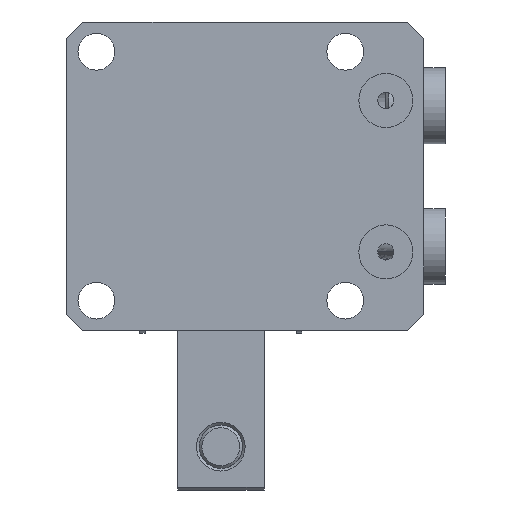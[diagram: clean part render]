
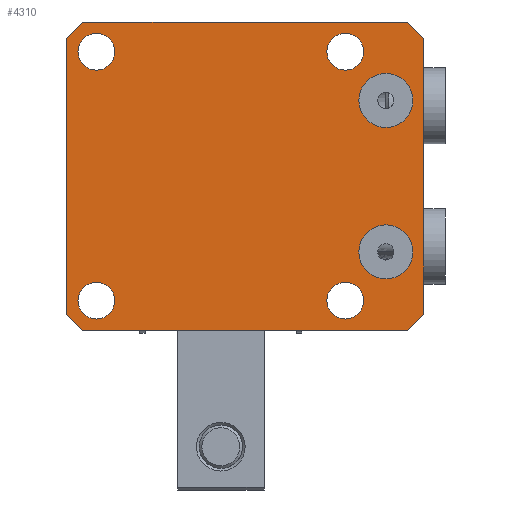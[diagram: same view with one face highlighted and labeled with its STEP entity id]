
A CAD part, front view. The second image highlights one B-rep face of the part: STEP entity #4310.
In plain terms, the highlighted planar face has unit normal (0, -1, 0).
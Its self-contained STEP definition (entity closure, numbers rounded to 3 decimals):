
#164=PLANE('',#4955);
#284=FACE_BOUND('',#773,.T.);
#285=FACE_BOUND('',#774,.T.);
#286=FACE_BOUND('',#775,.T.);
#287=FACE_BOUND('',#776,.T.);
#288=FACE_BOUND('',#777,.T.);
#289=FACE_BOUND('',#778,.T.);
#511=FACE_OUTER_BOUND('',#772,.T.);
#772=EDGE_LOOP('',(#3178,#3179,#3180,#3181,#3182,#3183,#3184,#3185));
#773=EDGE_LOOP('',(#3186));
#774=EDGE_LOOP('',(#3187));
#775=EDGE_LOOP('',(#3188));
#776=EDGE_LOOP('',(#3189));
#777=EDGE_LOOP('',(#3190));
#778=EDGE_LOOP('',(#3191));
#1075=LINE('',#7023,#1425);
#1108=LINE('',#7091,#1458);
#1109=LINE('',#7094,#1459);
#1110=LINE('',#7096,#1460);
#1111=LINE('',#7098,#1461);
#1112=LINE('',#7100,#1462);
#1113=LINE('',#7102,#1463);
#1114=LINE('',#7103,#1464);
#1425=VECTOR('',#5543,1000.);
#1458=VECTOR('',#5600,1000.);
#1459=VECTOR('',#5603,1000.);
#1460=VECTOR('',#5604,1000.);
#1461=VECTOR('',#5605,1000.);
#1462=VECTOR('',#5606,1000.);
#1463=VECTOR('',#5607,1000.);
#1464=VECTOR('',#5608,1000.);
#1749=CIRCLE('',#4890,3.4);
#1752=CIRCLE('',#4894,3.4);
#1753=CIRCLE('',#4896,3.4);
#1756=CIRCLE('',#4900,3.4);
#1760=CIRCLE('',#4905,5.);
#1762=CIRCLE('',#4908,5.);
#1956=VERTEX_POINT('',#6740);
#1959=VERTEX_POINT('',#6748);
#1960=VERTEX_POINT('',#6752);
#1963=VERTEX_POINT('',#6760);
#1967=VERTEX_POINT('',#6770);
#1969=VERTEX_POINT('',#6776);
#2008=VERTEX_POINT('',#7020);
#2009=VERTEX_POINT('',#7022);
#2032=VERTEX_POINT('',#7089);
#2033=VERTEX_POINT('',#7093);
#2034=VERTEX_POINT('',#7095);
#2035=VERTEX_POINT('',#7097);
#2036=VERTEX_POINT('',#7099);
#2037=VERTEX_POINT('',#7101);
#2372=EDGE_CURVE('',#1956,#1956,#1749,.T.);
#2376=EDGE_CURVE('',#1959,#1959,#1752,.T.);
#2378=EDGE_CURVE('',#1960,#1960,#1753,.T.);
#2382=EDGE_CURVE('',#1963,#1963,#1756,.T.);
#2388=EDGE_CURVE('',#1967,#1967,#1760,.T.);
#2391=EDGE_CURVE('',#1969,#1969,#1762,.T.);
#2444=EDGE_CURVE('',#2009,#2008,#1075,.T.);
#2479=EDGE_CURVE('',#2032,#2008,#1108,.T.);
#2480=EDGE_CURVE('',#2032,#2033,#1109,.T.);
#2481=EDGE_CURVE('',#2033,#2034,#1110,.T.);
#2482=EDGE_CURVE('',#2034,#2035,#1111,.T.);
#2483=EDGE_CURVE('',#2035,#2036,#1112,.T.);
#2484=EDGE_CURVE('',#2036,#2037,#1113,.T.);
#2485=EDGE_CURVE('',#2037,#2009,#1114,.T.);
#3178=ORIENTED_EDGE('',*,*,#2480,.T.);
#3179=ORIENTED_EDGE('',*,*,#2481,.T.);
#3180=ORIENTED_EDGE('',*,*,#2482,.T.);
#3181=ORIENTED_EDGE('',*,*,#2483,.T.);
#3182=ORIENTED_EDGE('',*,*,#2484,.T.);
#3183=ORIENTED_EDGE('',*,*,#2485,.T.);
#3184=ORIENTED_EDGE('',*,*,#2444,.T.);
#3185=ORIENTED_EDGE('',*,*,#2479,.F.);
#3186=ORIENTED_EDGE('',*,*,#2372,.T.);
#3187=ORIENTED_EDGE('',*,*,#2376,.T.);
#3188=ORIENTED_EDGE('',*,*,#2378,.T.);
#3189=ORIENTED_EDGE('',*,*,#2382,.T.);
#3190=ORIENTED_EDGE('',*,*,#2388,.T.);
#3191=ORIENTED_EDGE('',*,*,#2391,.T.);
#4310=ADVANCED_FACE('',(#511,#284,#285,#286,#287,#288,#289),#164,.T.);
#4890=AXIS2_PLACEMENT_3D('',#6741,#5407,#5408);
#4894=AXIS2_PLACEMENT_3D('',#6749,#5416,#5417);
#4896=AXIS2_PLACEMENT_3D('',#6753,#5421,#5422);
#4900=AXIS2_PLACEMENT_3D('',#6761,#5430,#5431);
#4905=AXIS2_PLACEMENT_3D('',#6772,#5442,#5443);
#4908=AXIS2_PLACEMENT_3D('',#6778,#5449,#5450);
#4955=AXIS2_PLACEMENT_3D('',#7092,#5601,#5602);
#5407=DIRECTION('center_axis',(0.,1.,0.));
#5408=DIRECTION('ref_axis',(0.,0.,1.));
#5416=DIRECTION('center_axis',(0.,1.,0.));
#5417=DIRECTION('ref_axis',(0.,0.,1.));
#5421=DIRECTION('center_axis',(0.,1.,0.));
#5422=DIRECTION('ref_axis',(0.,0.,1.));
#5430=DIRECTION('center_axis',(0.,1.,0.));
#5431=DIRECTION('ref_axis',(0.,0.,1.));
#5442=DIRECTION('center_axis',(0.,1.,0.));
#5443=DIRECTION('ref_axis',(0.,0.,-1.));
#5449=DIRECTION('center_axis',(0.,1.,0.));
#5450=DIRECTION('ref_axis',(0.,0.,-1.));
#5543=DIRECTION('',(1.,0.,0.));
#5600=DIRECTION('',(-0.707,0.,-0.707));
#5601=DIRECTION('center_axis',(0.,-1.,0.));
#5602=DIRECTION('ref_axis',(0.,0.,-1.));
#5603=DIRECTION('',(0.,0.,1.));
#5604=DIRECTION('',(-0.707,0.,0.707));
#5605=DIRECTION('',(-1.,0.,0.));
#5606=DIRECTION('',(-0.707,0.,-0.707));
#5607=DIRECTION('',(0.,0.,-1.));
#5608=DIRECTION('',(0.707,0.,-0.707));
#6740=CARTESIAN_POINT('',(-458.049,141.613,-26.4));
#6741=CARTESIAN_POINT('Origin',(-458.049,141.613,-23.));
#6748=CARTESIAN_POINT('',(-412.049,141.613,-26.4));
#6749=CARTESIAN_POINT('Origin',(-412.049,141.613,-23.));
#6752=CARTESIAN_POINT('',(-412.049,141.613,19.6));
#6753=CARTESIAN_POINT('Origin',(-412.049,141.613,23.));
#6760=CARTESIAN_POINT('',(-458.049,141.613,19.6));
#6761=CARTESIAN_POINT('Origin',(-458.049,141.613,23.));
#6770=CARTESIAN_POINT('',(-404.549,141.613,19.));
#6772=CARTESIAN_POINT('Origin',(-404.549,141.613,14.));
#6776=CARTESIAN_POINT('',(-404.549,141.613,-9.));
#6778=CARTESIAN_POINT('Origin',(-404.549,141.613,-14.));
#7020=CARTESIAN_POINT('',(-400.549,141.613,-28.5));
#7022=CARTESIAN_POINT('',(-460.549,141.613,-28.5));
#7023=CARTESIAN_POINT('',(-460.549,141.613,-28.5));
#7089=CARTESIAN_POINT('',(-397.549,141.613,-25.5));
#7091=CARTESIAN_POINT('',(-397.549,141.613,-25.5));
#7092=CARTESIAN_POINT('Origin',(-463.549,141.613,-28.5));
#7093=CARTESIAN_POINT('',(-397.549,141.613,25.5));
#7094=CARTESIAN_POINT('',(-397.549,141.613,-28.5));
#7095=CARTESIAN_POINT('',(-400.549,141.613,28.5));
#7096=CARTESIAN_POINT('',(-397.549,141.613,25.5));
#7097=CARTESIAN_POINT('',(-460.549,141.613,28.5));
#7098=CARTESIAN_POINT('',(-463.549,141.613,28.5));
#7099=CARTESIAN_POINT('',(-463.549,141.613,25.5));
#7100=CARTESIAN_POINT('',(-460.549,141.613,28.5));
#7101=CARTESIAN_POINT('',(-463.549,141.613,-25.5));
#7102=CARTESIAN_POINT('',(-463.549,141.613,-28.5));
#7103=CARTESIAN_POINT('',(-463.549,141.613,-25.5));
